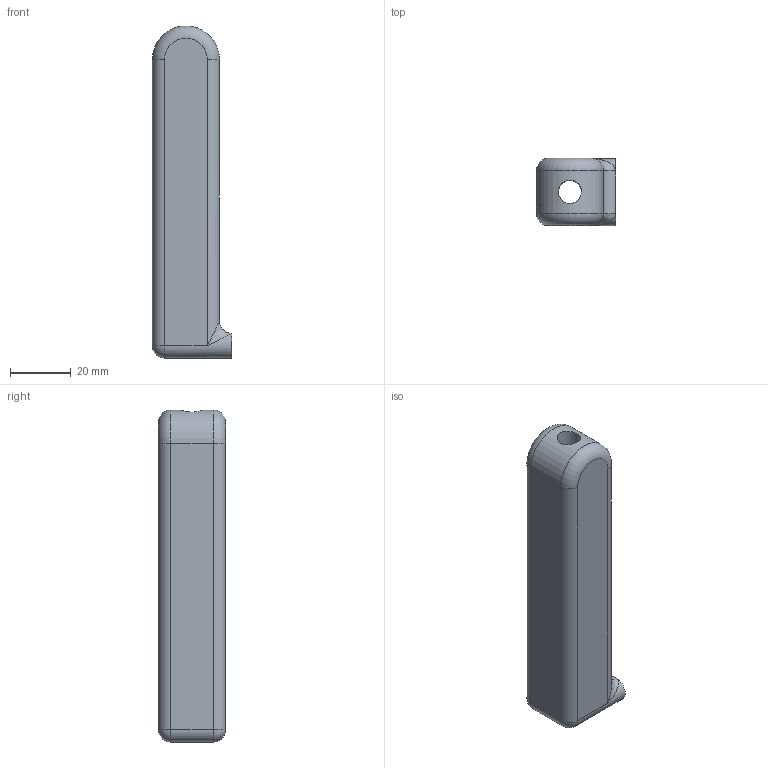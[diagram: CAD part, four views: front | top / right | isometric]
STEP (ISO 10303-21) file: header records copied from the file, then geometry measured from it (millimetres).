
FILE_DESCRIPTION(/* description */ (''),/* implementation_level */ '2;1');
FILE_NAME(/* name */ 'C:/Users/Owner/Desktop/K-CAD Songbird PM4 Centerfire/STEP/Barrels/Barrel Type 2/Barrel Type 2 .3 inch ID.step',/* time_stamp */ '2020-12-05T21:35:15-05:00',/* author */ (''),/* organization */ (''),/* preprocessor_version */ 'ST-DEVELOPER v18.1',/* originating_system */ 'Autodesk Translation Framework v9.3.0.1241',/* authorisation */ '');
FILE_SCHEMA (('AUTOMOTIVE_DESIGN { 1 0 10303 214 3 1 1 }'));
Length unit declared in the file: inch
Products named in the file (1): Barrel Type 2 .3 inch ID
Bounding box: 26 x 22 x 109 mm (x, y, z)
Volume: 45637.6 mm3; surface area: 12044.3 mm2
Topology: 1 solids, 1 shells, 22 faces, 49 edges, 26 vertices
Faces by surface type: cylinder 10, plane 6, bspline 2, sphere 2, torus 2
Full cylindrical faces by diameter (mm): 7.62 x1
Entity records: 732 total; most frequent: CARTESIAN_POINT 206, DIRECTION 112, ORIENTED_EDGE 92, EDGE_CURVE 46, AXIS2_PLACEMENT_3D 46, VERTEX_POINT 26, EDGE_LOOP 24, FACE_OUTER_BOUND 22
